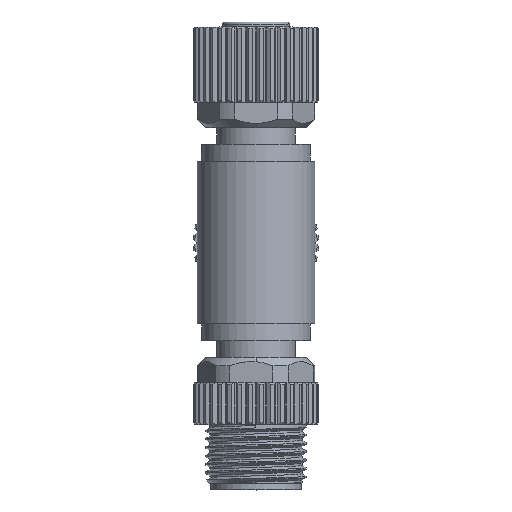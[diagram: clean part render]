
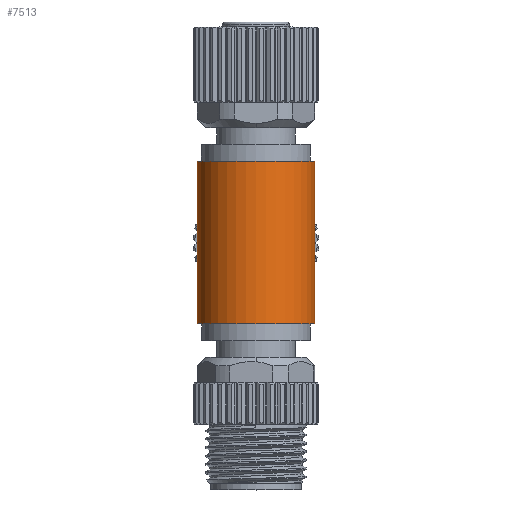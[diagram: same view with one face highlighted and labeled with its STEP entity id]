
A CAD part, top view. The second image highlights one B-rep face of the part: STEP entity #7513.
In plain terms, the highlighted cylindrical face has radius 7 mm (diameter 14 mm), a partial arc.
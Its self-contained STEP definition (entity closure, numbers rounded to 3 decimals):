
#1805=FACE_OUTER_BOUND('',#9936,.T.);
#3910=LINE('',#43957,#5775);
#3911=LINE('',#43961,#5776);
#5775=VECTOR('',#32598,1.);
#5776=VECTOR('',#32601,1.);
#7513=ADVANCED_FACE('',(#1805),#8756,.T.);
#8756=CYLINDRICAL_SURFACE('',#28348,7.);
#9936=EDGE_LOOP('',(#13413,#13414,#13415,#13416));
#13413=ORIENTED_EDGE('',*,*,#23312,.T.);
#13414=ORIENTED_EDGE('',*,*,#23323,.F.);
#13415=ORIENTED_EDGE('',*,*,#23324,.F.);
#13416=ORIENTED_EDGE('',*,*,#23325,.T.);
#20226=VERTEX_POINT('',#43935);
#20227=VERTEX_POINT('',#43937);
#20232=VERTEX_POINT('',#43958);
#20233=VERTEX_POINT('',#43960);
#23312=EDGE_CURVE('',#20227,#20226,#26526,.T.);
#23323=EDGE_CURVE('',#20232,#20226,#3910,.T.);
#23324=EDGE_CURVE('',#20233,#20232,#26530,.T.);
#23325=EDGE_CURVE('',#20233,#20227,#3911,.T.);
#26526=CIRCLE('',#28338,7.);
#26530=CIRCLE('',#28347,7.);
#28338=AXIS2_PLACEMENT_3D('',#43936,#32573,#32574);
#28347=AXIS2_PLACEMENT_3D('',#43959,#32599,#32600);
#28348=AXIS2_PLACEMENT_3D('',#43962,#32602,#32603);
#32573=DIRECTION('',(0.,-1.,0.));
#32574=DIRECTION('',(1.,0.,0.));
#32598=DIRECTION('',(0.,1.,0.));
#32599=DIRECTION('',(0.,-1.,0.));
#32600=DIRECTION('',(1.,0.,0.));
#32601=DIRECTION('',(0.,1.,0.));
#32602=DIRECTION('',(0.,1.,0.));
#32603=DIRECTION('',(0.,0.,-1.));
#43935=CARTESIAN_POINT('',(-7.,9.7,0.));
#43936=CARTESIAN_POINT('',(0.,9.7,0.));
#43937=CARTESIAN_POINT('',(7.,9.7,0.));
#43957=CARTESIAN_POINT('',(-7.,-9.7,0.));
#43958=CARTESIAN_POINT('',(-7.,-9.7,0.));
#43959=CARTESIAN_POINT('',(0.,-9.7,0.));
#43960=CARTESIAN_POINT('',(7.,-9.7,0.));
#43961=CARTESIAN_POINT('',(7.,-9.7,0.));
#43962=CARTESIAN_POINT('',(0.,-9.7,0.));
